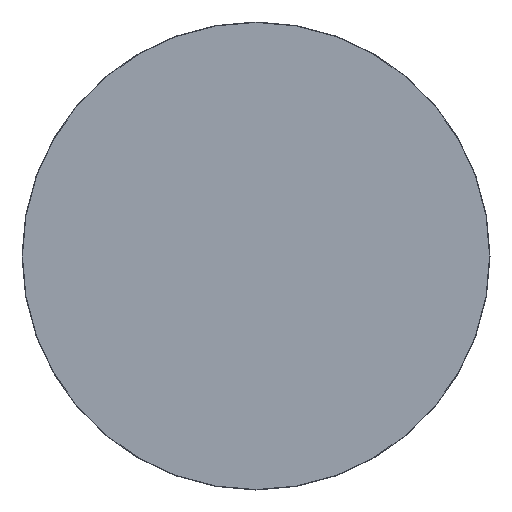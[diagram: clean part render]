
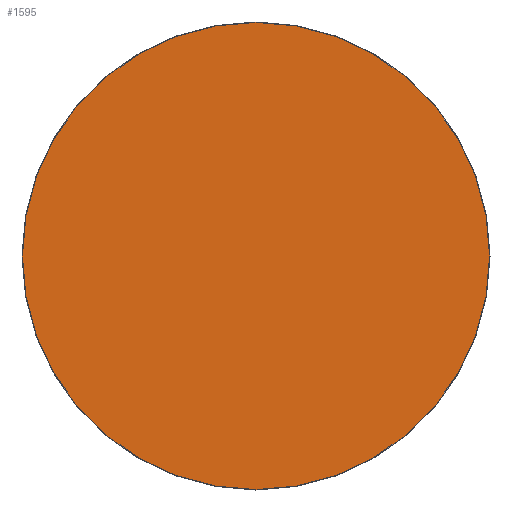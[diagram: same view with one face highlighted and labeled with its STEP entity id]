
A CAD part, left-side view. The second image highlights one B-rep face of the part: STEP entity #1595.
In plain terms, the highlighted planar face has unit normal (-1, 0, 0).
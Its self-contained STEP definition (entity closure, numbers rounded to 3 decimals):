
#109 = AXIS2_PLACEMENT_3D ( 'NONE', #457, #2370, #467 ) ;
#319 = EDGE_LOOP ( 'NONE', ( #619, #1291 ) ) ;
#457 = CARTESIAN_POINT ( 'NONE',  ( 0., 0., 0. ) ) ;
#467 = DIRECTION ( 'NONE',  ( 0., -1., 0. ) ) ;
#619 = ORIENTED_EDGE ( 'NONE', *, *, #893, .T. ) ;
#893 = EDGE_CURVE ( 'NONE', #1732, #3282, #1625, .T. ) ;
#1056 = AXIS2_PLACEMENT_3D ( 'NONE', #2623, #2858, #3402 ) ;
#1291 = ORIENTED_EDGE ( 'NONE', *, *, #3337, .T. ) ;
#1553 = CARTESIAN_POINT ( 'NONE',  ( 0., 0., 0. ) ) ;
#1595 = ADVANCED_FACE ( 'NONE', ( #1893 ), #1816, .T. ) ;
#1625 = CIRCLE ( 'NONE', #109, 54.9 ) ;
#1713 = AXIS2_PLACEMENT_3D ( 'NONE', #1553, #2892, #2617 ) ;
#1732 = VERTEX_POINT ( 'NONE', #1947 ) ;
#1783 = CIRCLE ( 'NONE', #1056, 54.9 ) ;
#1795 = CARTESIAN_POINT ( 'NONE',  ( 0., 54.9, 0. ) ) ;
#1816 = PLANE ( 'NONE',  #1713 ) ;
#1893 = FACE_OUTER_BOUND ( 'NONE', #319, .T. ) ;
#1947 = CARTESIAN_POINT ( 'NONE',  ( 0., -54.9, 0. ) ) ;
#2370 = DIRECTION ( 'NONE',  ( -1., 0., 0. ) ) ;
#2617 = DIRECTION ( 'NONE',  ( 0., -1., 0. ) ) ;
#2623 = CARTESIAN_POINT ( 'NONE',  ( 0., 0., 0. ) ) ;
#2858 = DIRECTION ( 'NONE',  ( -1., 0., 0. ) ) ;
#2892 = DIRECTION ( 'NONE',  ( -1., 0., 0. ) ) ;
#3282 = VERTEX_POINT ( 'NONE', #1795 ) ;
#3337 = EDGE_CURVE ( 'NONE', #3282, #1732, #1783, .T. ) ;
#3402 = DIRECTION ( 'NONE',  ( 0., -1., 0. ) ) ;
